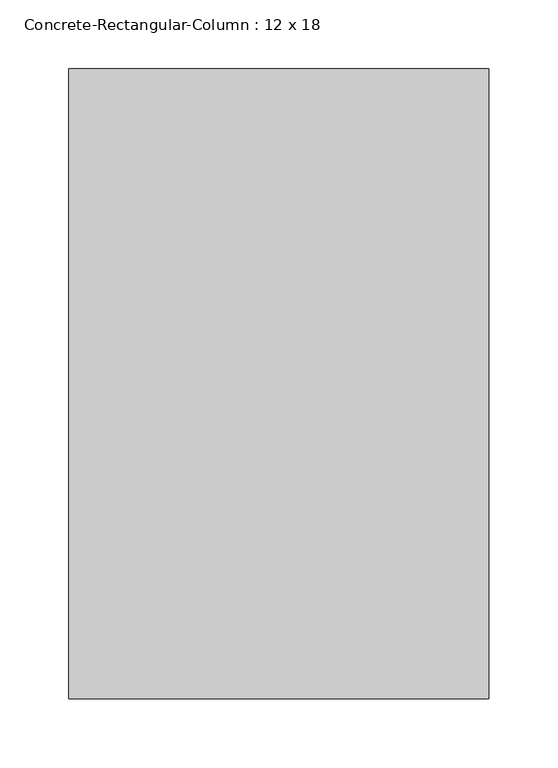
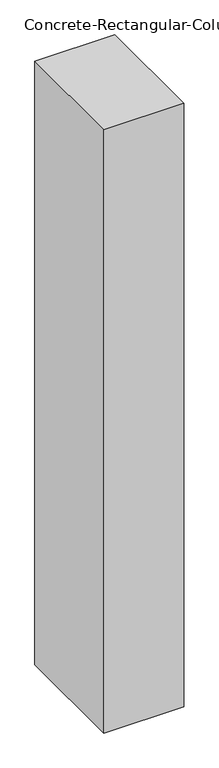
"""IFC4 building model written with IfcOpenShell, lengths in millimetres: column geometry, Concrete-Rectangular-Column : 12 x 18."""

from ifc_helpers import new_model, si_unit, origin, origin_with_axes, place, context, project, spatial, polyline, outline, extrude, source, transform, mapped, element, save


def concrete_rectangular_column_12_x_18_bfd634d7(model_context):
    return source(origin(), model_context, "Body", "SweptSolid", [
        extrude(outline(polyline([(152.4, 228.6), (152.4, -228.6), (-152.4, -228.6), (-152.4, 228.6), (152.4, 228.6)])), origin_with_axes(), (0.0, 0.0, 1.0), 2438.4),
    ])


if __name__ == "__main__":
    model = new_model("IFC4")
    model_context = context("Model", 3, world=origin())
    ifc_project = project(units=[si_unit("LENGTHUNIT", "METRE", prefix="MILLI")], contexts=[model_context])
    site = spatial("IfcSite", under=ifc_project)
    building = spatial("IfcBuilding", under=site)
    placement = place(None, origin())
    concrete_rectangular_column_12_x_18_shape = concrete_rectangular_column_12_x_18_bfd634d7(model_context)
    element("IfcColumn", 1, ObjectType="Concrete-Rectangular-Column : 12 x 18", at=placement, inside=building, context=model_context, shape_type="MappedRepresentation", body=[
        mapped(concrete_rectangular_column_12_x_18_shape, transform((0.0, 0.0, 0.0), x_axis=(1.0, 0.0, 0.0), y_axis=(0.0, 1.0, 0.0), z_axis=(0.0, 0.0, 1.0))),
    ])
    save(model, "model.ifc")
